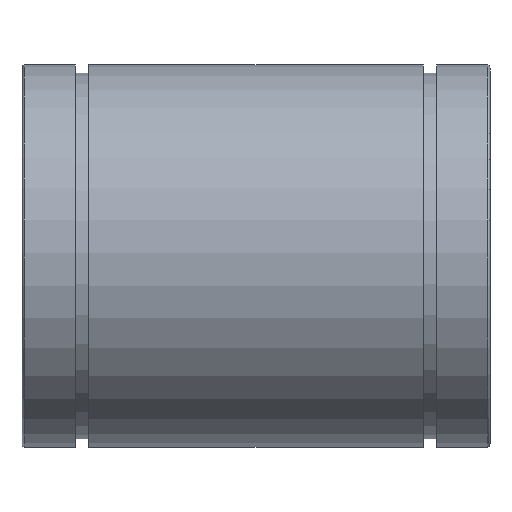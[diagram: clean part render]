
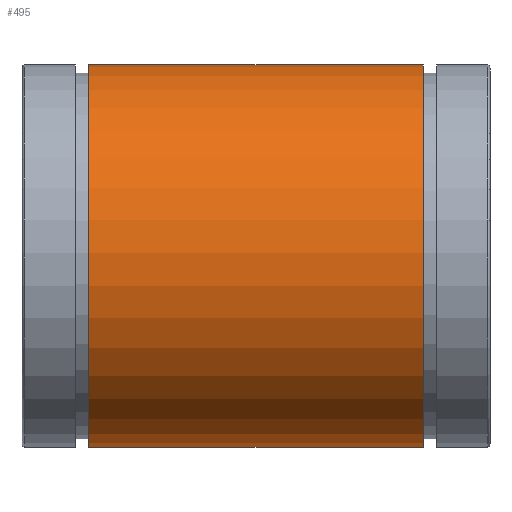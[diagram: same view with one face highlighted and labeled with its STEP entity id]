
A CAD part, front view. The second image highlights one B-rep face of the part: STEP entity #495.
In plain terms, the highlighted cylindrical face has radius 45 mm (diameter 90 mm), a partial arc.
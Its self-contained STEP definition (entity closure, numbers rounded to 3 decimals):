
#96=CARTESIAN_POINT('',(15.65,1.5,-44.975));
#97=VERTEX_POINT('',#96);
#104=CARTESIAN_POINT('',(94.35,1.5,-44.975));
#105=VERTEX_POINT('',#104);
#106=CARTESIAN_POINT('',(94.35,1.5,-44.975));
#107=DIRECTION('',(-1.0,0.0,0.0));
#108=VECTOR('',#107,78.7);
#109=LINE('',#106,#108);
#110=EDGE_CURVE('',#105,#97,#109,.T.);
#351=CARTESIAN_POINT('',(94.35,-1.5,-44.975));
#352=VERTEX_POINT('',#351);
#359=CARTESIAN_POINT('',(15.65,-1.5,-44.975));
#360=VERTEX_POINT('',#359);
#361=CARTESIAN_POINT('',(15.65,-1.5,-44.975));
#362=DIRECTION('',(1.0,0.0,0.0));
#363=VECTOR('',#362,78.7);
#364=LINE('',#361,#363);
#365=EDGE_CURVE('',#360,#352,#364,.T.);
#466=CARTESIAN_POINT('',(15.65,0.0,0.));
#467=DIRECTION('',(-1.0,0.0,0.0));
#468=DIRECTION('',(0.0,0.0,1.0));
#469=AXIS2_PLACEMENT_3D('',#466,#467,#468);
#470=CIRCLE('',#469,45.);
#471=EDGE_CURVE('',#360,#97,#470,.T.);
#478=CARTESIAN_POINT('',(55.,0.0,0.));
#479=DIRECTION('',(-1.0,0.0,0.));
#480=DIRECTION('',(0.0,0.0,1.0));
#481=AXIS2_PLACEMENT_3D('',#478,#479,#480);
#482=CYLINDRICAL_SURFACE('',#481,45.);
#483=ORIENTED_EDGE('',*,*,#365,.T.);
#484=CARTESIAN_POINT('',(94.35,0.0,0.));
#485=DIRECTION('',(-1.0,0.0,0.0));
#486=DIRECTION('',(0.0,0.0,1.0));
#487=AXIS2_PLACEMENT_3D('',#484,#485,#486);
#488=CIRCLE('',#487,45.);
#489=EDGE_CURVE('',#352,#105,#488,.T.);
#490=ORIENTED_EDGE('',*,*,#489,.T.);
#491=ORIENTED_EDGE('',*,*,#110,.T.);
#492=ORIENTED_EDGE('',*,*,#471,.F.);
#493=EDGE_LOOP('',(#483,#490,#491,#492));
#494=FACE_OUTER_BOUND('',#493,.T.);
#495=ADVANCED_FACE('',(#494),#482,.T.);
